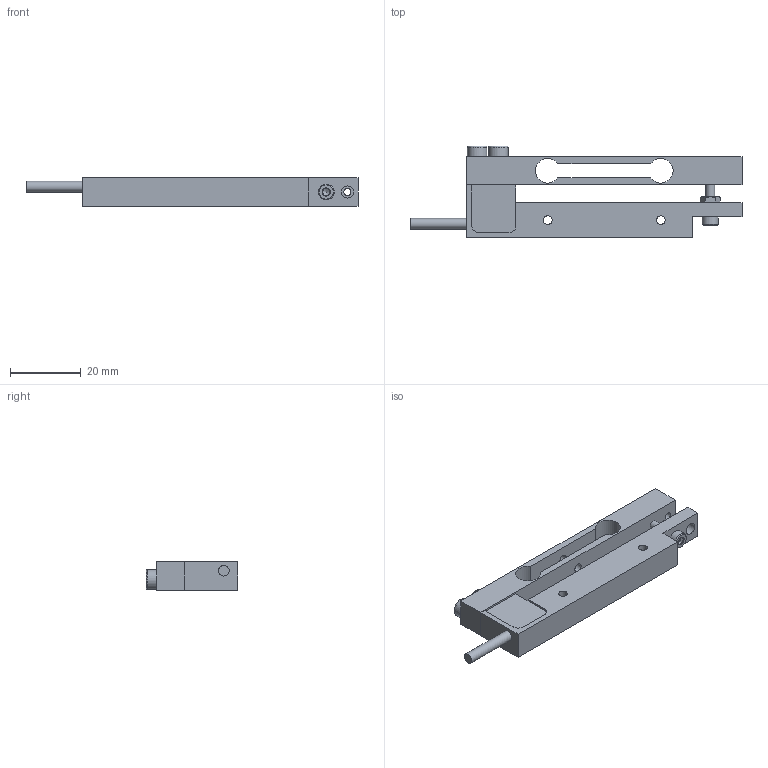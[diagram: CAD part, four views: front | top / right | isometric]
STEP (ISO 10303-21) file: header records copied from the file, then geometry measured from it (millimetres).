
FILE_DESCRIPTION(/* description */ ('Alibre Inc.'),/* implementation_level */ '2;1');
FILE_NAME(/* name */ 'export0',/* time_stamp */ '2015-03-06T10:30:35+01:00',/* author */ (''),/* organization */ (''),/* preprocessor_version */ 'ST-DEVELOPER v14',/* originating_system */ 'Alibre',/* authorisation */ '');
FILE_SCHEMA (('CONFIG_CONTROL_DESIGN'));
Length unit declared in the file: centimetre
Products named in the file (8): ID_1; ID_2; HI_ENGEL DIN 912-A2 M3x12; _M2.5x16; _SFS FN 149 114702 Sechskantmutter DIN 439 rostfreier Stahl   rostfrei
 A2 BM2.5; ID_3
Bounding box: 94 x 26 x 8 mm (x, y, z)
Volume: 9774.7 mm3; surface area: 7411.5 mm2
Topology: 7 solids, 7 shells, 148 faces, 343 edges, 213 vertices
Faces by surface type: plane 79, cone 36, cylinder 26, torus 7
Full cylindrical faces by diameter (mm): 2.013 x3, 2.459 x4, 2.5 x3, 3 x6, 3.4 x2, 4.5 x1, 5.5 x2
Entity records: 4105 total; most frequent: CARTESIAN_POINT 733, DIRECTION 512, ORIENTED_EDGE 488, EDGE_CURVE 244, AXIS2_PLACEMENT_3D 233, FACE_BOUND 191, EDGE_LOOP 187, VERTEX_POINT 175
